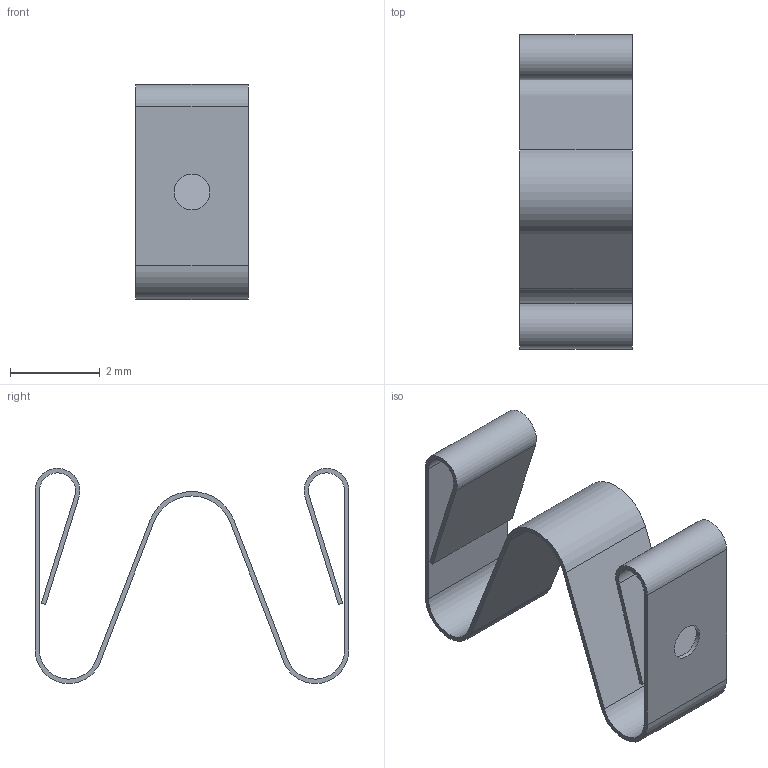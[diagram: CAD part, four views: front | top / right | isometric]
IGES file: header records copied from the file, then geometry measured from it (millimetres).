
Start section:  PTC IGES file: 3S2548070B.igs
Global section: file name: 3S2548070B.igs; native system: Creo Parametric by PTC Inc.; preprocessor: 2015200; author: jairo; organization: Unknown; date: 20180315.142545; units: millimetre
Bounding box: 2.5 x 7 x 4.8 mm (x, y, z)
Surface area: 145.8 mm2 (no closed solid volume)
Topology: 0 solids, 0 shells, 28 faces, 156 edges, 156 vertices
Faces by surface type: bspline 16, revolution 12
